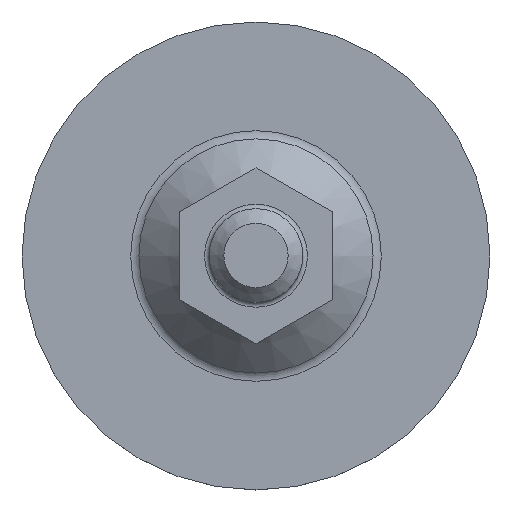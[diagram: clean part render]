
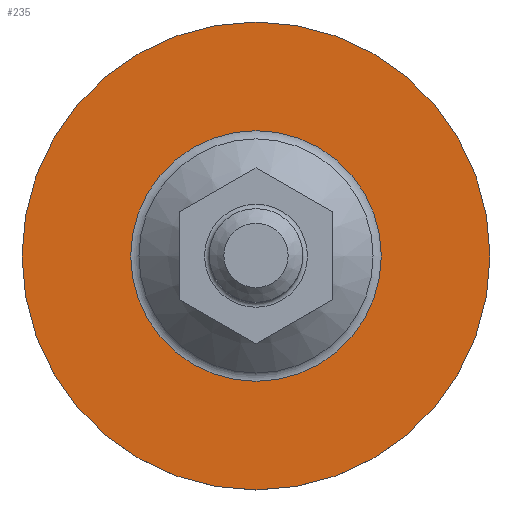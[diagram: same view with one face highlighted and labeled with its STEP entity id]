
A CAD part, top view. The second image highlights one B-rep face of the part: STEP entity #235.
In plain terms, the highlighted planar face has unit normal (0, 0, 1).
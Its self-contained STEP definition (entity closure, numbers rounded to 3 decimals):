
#235=ADVANCED_FACE('',(#373,#375),#377,.T.);
#373=FACE_BOUND('',#374,.T.);
#374=EDGE_LOOP('',(#925));
#375=FACE_BOUND('',#376,.T.);
#376=EDGE_LOOP('',(#926));
#377=PLANE('',#378);
#378=AXIS2_PLACEMENT_3D('',#379,#380,#381);
#379=CARTESIAN_POINT('',(0.,0.,1.2));
#380=DIRECTION('',(0.,0.,1.));
#381=DIRECTION('',(-1.,0.,0.));
#925=ORIENTED_EDGE('',*,*,#1130,.T.);
#926=ORIENTED_EDGE('',*,*,#1128,.F.);
#1128=EDGE_CURVE('',#1244,#1244,#1245,.T.);
#1130=EDGE_CURVE('',#1248,#1248,#1249,.T.);
#1244=VERTEX_POINT('',#1459);
#1245=CIRCLE('',#1460,10.714);
#1248=VERTEX_POINT('',#1469);
#1249=CIRCLE('',#1470,20.);
#1459=CARTESIAN_POINT('',(-10.714,0.,1.2));
#1460=AXIS2_PLACEMENT_3D('',#1461,#1462,#1463);
#1461=CARTESIAN_POINT('',(0.,0.,1.2));
#1462=DIRECTION('',(0.,0.,1.));
#1463=DIRECTION('',(-1.,0.,0.));
#1469=CARTESIAN_POINT('',(-20.,0.,1.2));
#1470=AXIS2_PLACEMENT_3D('',#1471,#1472,#1473);
#1471=CARTESIAN_POINT('',(0.,0.,1.2));
#1472=DIRECTION('',(0.,0.,1.));
#1473=DIRECTION('',(-1.,0.,0.));
